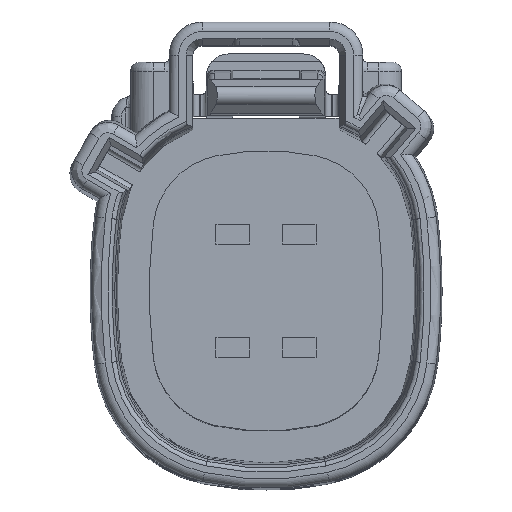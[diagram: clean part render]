
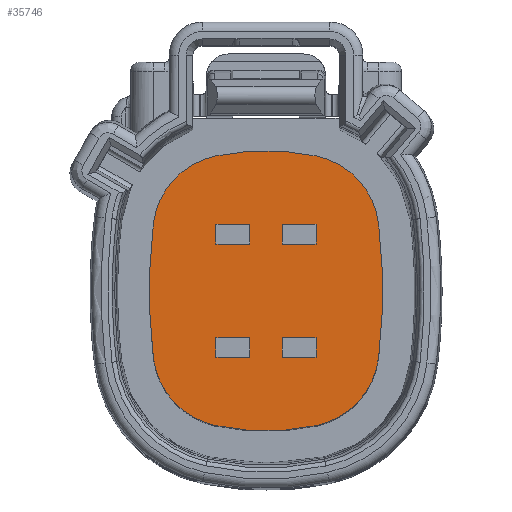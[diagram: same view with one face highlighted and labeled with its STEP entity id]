
A CAD part, top view. The second image highlights one B-rep face of the part: STEP entity #35746.
In plain terms, the highlighted planar face has unit normal (0, 0, 1).
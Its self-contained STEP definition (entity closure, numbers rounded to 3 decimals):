
#12988=CARTESIAN_POINT('',(1.81,-3.063,1.25));
#12989=DIRECTION('',(0.,0.,-1.));
#12990=DIRECTION('',(0.993,-0.117,0.));
#12991=AXIS2_PLACEMENT_3D('',#12988,#12989,#12990);
#12993=CARTESIAN_POINT('',(-0.005,5.251,1.25));
#12994=DIRECTION('',(0.,0.,-1.));
#12995=DIRECTION('',(0.213,-0.977,0.));
#12996=AXIS2_PLACEMENT_3D('',#12993,#12994,#12995);
#12998=CARTESIAN_POINT('',(-1.821,-3.063,1.25));
#12999=DIRECTION('',(0.,0.,-1.));
#13000=DIRECTION('',(-0.213,-0.977,0.));
#13001=AXIS2_PLACEMENT_3D('',#12998,#12999,#13000);
#13003=CARTESIAN_POINT('',(24.,-0.014,1.25));
#13004=DIRECTION('',(0.,0.,-1.));
#13005=DIRECTION('',(-0.993,-0.117,0.));
#13006=AXIS2_PLACEMENT_3D('',#13003,#13004,#13005);
#13008=CARTESIAN_POINT('',(-1.821,3.035,1.25));
#13009=DIRECTION('',(0.,0.,-1.));
#13010=DIRECTION('',(-0.993,0.117,0.));
#13011=AXIS2_PLACEMENT_3D('',#13008,#13009,#13010);
#13013=CARTESIAN_POINT('',(-0.005,-5.279,1.25));
#13014=DIRECTION('',(0.,0.,-1.));
#13015=DIRECTION('',(-0.213,0.977,0.));
#13016=AXIS2_PLACEMENT_3D('',#13013,#13014,#13015);
#13018=CARTESIAN_POINT('',(1.81,3.035,1.25));
#13019=DIRECTION('',(0.,0.,-1.));
#13020=DIRECTION('',(0.213,0.977,0.));
#13021=AXIS2_PLACEMENT_3D('',#13018,#13019,#13020);
#13023=CARTESIAN_POINT('',(-24.01,-0.014,1.25));
#13024=DIRECTION('',(0.,0.,-1.));
#13025=DIRECTION('',(0.993,0.117,0.));
#13026=AXIS2_PLACEMENT_3D('',#13023,#13024,#13025);
#13032=DIRECTION('',(0.,1.,0.));
#13033=VECTOR('',#13032,1.05);
#13034=CARTESIAN_POINT('',(-2.655,-3.539,1.25));
#13035=LINE('',#13034,#13033);
#13044=DIRECTION('',(1.,0.,0.));
#13045=VECTOR('',#13044,1.8);
#13046=CARTESIAN_POINT('',(-2.655,-2.489,1.25));
#13047=LINE('',#13046,#13045);
#13048=DIRECTION('',(0.,-1.,0.));
#13049=VECTOR('',#13048,1.05);
#13050=CARTESIAN_POINT('',(-0.855,-2.489,1.25));
#13051=LINE('',#13050,#13049);
#13056=DIRECTION('',(-1.,0.,0.));
#13057=VECTOR('',#13056,1.8);
#13058=CARTESIAN_POINT('',(-0.855,-3.539,1.25));
#13059=LINE('',#13058,#13057);
#13084=DIRECTION('',(0.,-1.,0.));
#13085=VECTOR('',#13084,1.05);
#13086=CARTESIAN_POINT('',(-0.855,3.511,1.25));
#13087=LINE('',#13086,#13085);
#13088=DIRECTION('',(-1.,0.,0.));
#13089=VECTOR('',#13088,1.8);
#13090=CARTESIAN_POINT('',(-0.855,2.461,1.25));
#13091=LINE('',#13090,#13089);
#13100=DIRECTION('',(0.,1.,0.));
#13101=VECTOR('',#13100,1.05);
#13102=CARTESIAN_POINT('',(-2.655,2.461,1.25));
#13103=LINE('',#13102,#13101);
#13104=DIRECTION('',(1.,0.,0.));
#13105=VECTOR('',#13104,1.8);
#13106=CARTESIAN_POINT('',(-2.655,3.511,1.25));
#13107=LINE('',#13106,#13105);
#13128=DIRECTION('',(-1.,0.,0.));
#13129=VECTOR('',#13128,1.8);
#13130=CARTESIAN_POINT('',(2.645,2.461,1.25));
#13131=LINE('',#13130,#13129);
#13140=DIRECTION('',(0.,1.,0.));
#13141=VECTOR('',#13140,1.05);
#13142=CARTESIAN_POINT('',(0.845,2.461,1.25));
#13143=LINE('',#13142,#13141);
#13148=DIRECTION('',(1.,0.,0.));
#13149=VECTOR('',#13148,1.8);
#13150=CARTESIAN_POINT('',(0.845,3.511,1.25));
#13151=LINE('',#13150,#13149);
#13152=DIRECTION('',(0.,-1.,0.));
#13153=VECTOR('',#13152,1.05);
#13154=CARTESIAN_POINT('',(2.645,3.511,1.25));
#13155=LINE('',#13154,#13153);
#13176=DIRECTION('',(-1.,0.,0.));
#13177=VECTOR('',#13176,1.8);
#13178=CARTESIAN_POINT('',(2.645,-3.539,1.25));
#13179=LINE('',#13178,#13177);
#13188=DIRECTION('',(0.,1.,0.));
#13189=VECTOR('',#13188,1.05);
#13190=CARTESIAN_POINT('',(0.845,-3.539,1.25));
#13191=LINE('',#13190,#13189);
#13192=DIRECTION('',(1.,0.,0.));
#13193=VECTOR('',#13192,1.8);
#13194=CARTESIAN_POINT('',(0.845,-2.489,1.25));
#13195=LINE('',#13194,#13193);
#13200=DIRECTION('',(0.,-1.,0.));
#13201=VECTOR('',#13200,1.05);
#13202=CARTESIAN_POINT('',(2.645,-2.489,1.25));
#13203=LINE('',#13202,#13201);
#18358=CARTESIAN_POINT('',(2.702,7.118,1.25));
#18359=CARTESIAN_POINT('',(5.961,3.525,1.25));
#18360=VERTEX_POINT('',#18358);
#18361=VERTEX_POINT('',#18359);
#18362=CARTESIAN_POINT('',(-2.713,7.118,1.25));
#18363=VERTEX_POINT('',#18362);
#18364=CARTESIAN_POINT('',(5.961,-3.554,1.25));
#18365=VERTEX_POINT('',#18364);
#18366=CARTESIAN_POINT('',(2.702,-7.147,1.25));
#18367=VERTEX_POINT('',#18366);
#18368=CARTESIAN_POINT('',(-2.713,-7.147,1.25));
#18369=VERTEX_POINT('',#18368);
#18370=CARTESIAN_POINT('',(-5.972,-3.554,1.25));
#18371=VERTEX_POINT('',#18370);
#18372=CARTESIAN_POINT('',(-5.972,3.525,1.25));
#18373=VERTEX_POINT('',#18372);
#18374=CARTESIAN_POINT('',(-2.655,-2.489,1.25));
#18375=CARTESIAN_POINT('',(-0.855,-2.489,1.25));
#18376=VERTEX_POINT('',#18374);
#18377=VERTEX_POINT('',#18375);
#18378=CARTESIAN_POINT('',(-0.855,-3.539,1.25));
#18379=VERTEX_POINT('',#18378);
#18380=CARTESIAN_POINT('',(-2.655,-3.539,1.25));
#18381=VERTEX_POINT('',#18380);
#18382=CARTESIAN_POINT('',(-0.855,2.461,1.25));
#18383=CARTESIAN_POINT('',(-2.655,2.461,1.25));
#18384=VERTEX_POINT('',#18382);
#18385=VERTEX_POINT('',#18383);
#18386=CARTESIAN_POINT('',(-2.655,3.511,1.25));
#18387=VERTEX_POINT('',#18386);
#18388=CARTESIAN_POINT('',(-0.855,3.511,1.25));
#18389=VERTEX_POINT('',#18388);
#18390=CARTESIAN_POINT('',(0.845,2.461,1.25));
#18391=CARTESIAN_POINT('',(0.845,3.511,1.25));
#18392=VERTEX_POINT('',#18390);
#18393=VERTEX_POINT('',#18391);
#18394=CARTESIAN_POINT('',(2.645,3.511,1.25));
#18395=VERTEX_POINT('',#18394);
#18396=CARTESIAN_POINT('',(2.645,2.461,1.25));
#18397=VERTEX_POINT('',#18396);
#18398=CARTESIAN_POINT('',(0.845,-3.539,1.25));
#18399=CARTESIAN_POINT('',(0.845,-2.489,1.25));
#18400=VERTEX_POINT('',#18398);
#18401=VERTEX_POINT('',#18399);
#18402=CARTESIAN_POINT('',(2.645,-2.489,1.25));
#18403=VERTEX_POINT('',#18402);
#18404=CARTESIAN_POINT('',(2.645,-3.539,1.25));
#18405=VERTEX_POINT('',#18404);
#35691=CARTESIAN_POINT('',(-0.005,-0.014,1.25));
#35692=DIRECTION('',(0.,0.,1.));
#35693=DIRECTION('',(1.,0.,0.));
#35694=AXIS2_PLACEMENT_3D('',#35691,#35692,#35693);
#35695=PLANE('',#35694);
#35696=ORIENTED_EDGE('',*,*,#35673,.T.);
#35697=ORIENTED_EDGE('',*,*,#35659,.T.);
#35698=ORIENTED_EDGE('',*,*,#35645,.T.);
#35699=ORIENTED_EDGE('',*,*,#35631,.T.);
#35700=ORIENTED_EDGE('',*,*,#35617,.T.);
#35701=ORIENTED_EDGE('',*,*,#35603,.T.);
#35702=ORIENTED_EDGE('',*,*,#35589,.T.);
#35703=ORIENTED_EDGE('',*,*,#35686,.T.);
#35704=EDGE_LOOP('',(#35696,#35697,#35698,#35699,#35700,#35701,#35702,#35703));
#35705=FACE_OUTER_BOUND('',#35704,.F.);
#35707=ORIENTED_EDGE('',*,*,#35706,.F.);
#35709=ORIENTED_EDGE('',*,*,#35708,.F.);
#35711=ORIENTED_EDGE('',*,*,#35710,.F.);
#35713=ORIENTED_EDGE('',*,*,#35712,.F.);
#35714=EDGE_LOOP('',(#35707,#35709,#35711,#35713));
#35715=FACE_BOUND('',#35714,.F.);
#35717=ORIENTED_EDGE('',*,*,#35716,.F.);
#35719=ORIENTED_EDGE('',*,*,#35718,.F.);
#35721=ORIENTED_EDGE('',*,*,#35720,.F.);
#35723=ORIENTED_EDGE('',*,*,#35722,.F.);
#35724=EDGE_LOOP('',(#35717,#35719,#35721,#35723));
#35725=FACE_BOUND('',#35724,.F.);
#35727=ORIENTED_EDGE('',*,*,#35726,.F.);
#35729=ORIENTED_EDGE('',*,*,#35728,.F.);
#35731=ORIENTED_EDGE('',*,*,#35730,.F.);
#35733=ORIENTED_EDGE('',*,*,#35732,.F.);
#35734=EDGE_LOOP('',(#35727,#35729,#35731,#35733));
#35735=FACE_BOUND('',#35734,.F.);
#35737=ORIENTED_EDGE('',*,*,#35736,.F.);
#35739=ORIENTED_EDGE('',*,*,#35738,.F.);
#35741=ORIENTED_EDGE('',*,*,#35740,.F.);
#35743=ORIENTED_EDGE('',*,*,#35742,.F.);
#35744=EDGE_LOOP('',(#35737,#35739,#35741,#35743));
#35745=FACE_BOUND('',#35744,.F.);
#35746=ADVANCED_FACE('',(#35705,#35715,#35725,#35735,#35745),#35695,.T.);
#12992=CIRCLE('',#12991,4.18);
#12997=CIRCLE('',#12996,12.69);
#13002=CIRCLE('',#13001,4.18);
#13007=CIRCLE('',#13006,30.18);
#13012=CIRCLE('',#13011,4.18);
#13017=CIRCLE('',#13016,12.69);
#13022=CIRCLE('',#13021,4.18);
#13027=CIRCLE('',#13026,30.18);
#35589=EDGE_CURVE('',#18360,#18361,#13022,.T.);
#35603=EDGE_CURVE('',#18363,#18360,#13017,.T.);
#35617=EDGE_CURVE('',#18373,#18363,#13012,.T.);
#35631=EDGE_CURVE('',#18371,#18373,#13007,.T.);
#35645=EDGE_CURVE('',#18369,#18371,#13002,.T.);
#35659=EDGE_CURVE('',#18367,#18369,#12997,.T.);
#35673=EDGE_CURVE('',#18365,#18367,#12992,.T.);
#35686=EDGE_CURVE('',#18361,#18365,#13027,.T.);
#35706=EDGE_CURVE('',#18381,#18376,#13035,.T.);
#35708=EDGE_CURVE('',#18379,#18381,#13059,.T.);
#35710=EDGE_CURVE('',#18377,#18379,#13051,.T.);
#35712=EDGE_CURVE('',#18376,#18377,#13047,.T.);
#35716=EDGE_CURVE('',#18389,#18384,#13087,.T.);
#35718=EDGE_CURVE('',#18387,#18389,#13107,.T.);
#35720=EDGE_CURVE('',#18385,#18387,#13103,.T.);
#35722=EDGE_CURVE('',#18384,#18385,#13091,.T.);
#35726=EDGE_CURVE('',#18397,#18392,#13131,.T.);
#35728=EDGE_CURVE('',#18395,#18397,#13155,.T.);
#35730=EDGE_CURVE('',#18393,#18395,#13151,.T.);
#35732=EDGE_CURVE('',#18392,#18393,#13143,.T.);
#35736=EDGE_CURVE('',#18405,#18400,#13179,.T.);
#35738=EDGE_CURVE('',#18403,#18405,#13203,.T.);
#35740=EDGE_CURVE('',#18401,#18403,#13195,.T.);
#35742=EDGE_CURVE('',#18400,#18401,#13191,.T.);
